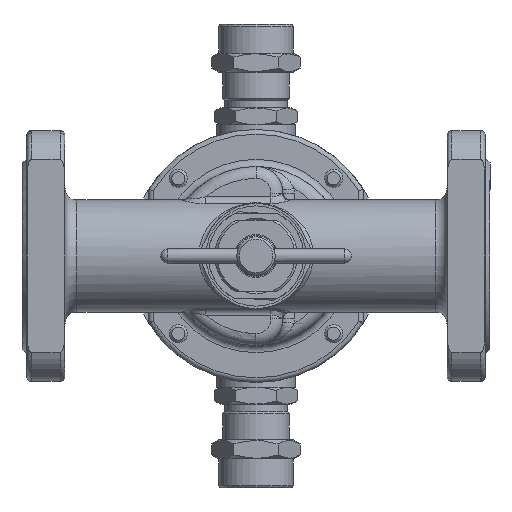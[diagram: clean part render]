
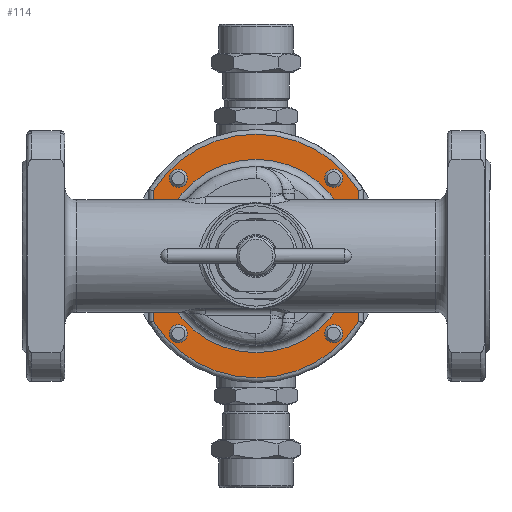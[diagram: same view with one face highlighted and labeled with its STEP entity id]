
A CAD part, front view. The second image highlights one B-rep face of the part: STEP entity #114.
In plain terms, the highlighted planar face has unit normal (0, -1, 0).
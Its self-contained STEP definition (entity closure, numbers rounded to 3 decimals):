
#114=ADVANCED_FACE('',(#3743,#3745,#3747,#3749,#3751,#3753),#3755,.F.);
#3743=FACE_BOUND('',#3744,.T.);
#3744=EDGE_LOOP('',(#20942));
#3745=FACE_BOUND('',#3746,.T.);
#3746=EDGE_LOOP('',(#20943));
#3747=FACE_BOUND('',#3748,.T.);
#3748=EDGE_LOOP('',(#20944));
#3749=FACE_BOUND('',#3750,.T.);
#3750=EDGE_LOOP('',(#20945));
#3751=FACE_BOUND('',#3752,.T.);
#3752=EDGE_LOOP('',(#20946));
#3753=FACE_OUTER_BOUND('',#3754,.T.);
#3754=EDGE_LOOP('',(#20947,#20948,#20949,#20950));
#3755=PLANE('',#3756);
#3756=AXIS2_PLACEMENT_3D('',#3757,#3758,#3759);
#3757=CARTESIAN_POINT('',(0.,30.,0.));
#3758=DIRECTION('',(0.,1.,0.));
#3759=DIRECTION('',(-1.,0.,0.));
#20942=ORIENTED_EDGE('',*,*,#32478,.F.);
#20943=ORIENTED_EDGE('',*,*,#32479,.F.);
#20944=ORIENTED_EDGE('',*,*,#32480,.F.);
#20945=ORIENTED_EDGE('',*,*,#32481,.F.);
#20946=ORIENTED_EDGE('',*,*,#32482,.F.);
#20947=ORIENTED_EDGE('',*,*,#32483,.F.);
#20948=ORIENTED_EDGE('',*,*,#32484,.F.);
#20949=ORIENTED_EDGE('',*,*,#32485,.F.);
#20950=ORIENTED_EDGE('',*,*,#32486,.F.);
#32478=EDGE_CURVE('',#37441,#37441,#37442,.T.);
#32479=EDGE_CURVE('',#37443,#37443,#37444,.T.);
#32480=EDGE_CURVE('',#37445,#37445,#37446,.T.);
#32481=EDGE_CURVE('',#37447,#37447,#37448,.T.);
#32482=EDGE_CURVE('',#37449,#37449,#37450,.T.);
#32483=EDGE_CURVE('',#37451,#37452,#37453,.T.);
#32484=EDGE_CURVE('',#37454,#37451,#37455,.T.);
#32485=EDGE_CURVE('',#37456,#37454,#37457,.T.);
#32486=EDGE_CURVE('',#37452,#37456,#37458,.T.);
#37441=VERTEX_POINT('',#45669);
#37442=CIRCLE('',#45670,3.75);
#37443=VERTEX_POINT('',#45674);
#37444=CIRCLE('',#45675,3.75);
#37445=VERTEX_POINT('',#45679);
#37446=CIRCLE('',#45680,40.5);
#37447=VERTEX_POINT('',#45684);
#37448=CIRCLE('',#45685,3.75);
#37449=VERTEX_POINT('',#45689);
#37450=CIRCLE('',#45690,3.75);
#37451=VERTEX_POINT('',#45694);
#37452=VERTEX_POINT('',#45695);
#37453=CIRCLE('',#45696,51.);
#37454=VERTEX_POINT('',#45700);
#37455=LINE('',#45701,#45702);
#37456=VERTEX_POINT('',#45704);
#37457=CIRCLE('',#45705,51.);
#37458=LINE('',#45709,#45710);
#45669=CARTESIAN_POINT('',(-32.527,30.,-36.277));
#45670=AXIS2_PLACEMENT_3D('',#45671,#45672,#45673);
#45671=CARTESIAN_POINT('',(-32.527,30.,-32.527));
#45672=DIRECTION('',(0.,-1.,0.));
#45673=DIRECTION('',(0.,0.,-1.));
#45674=CARTESIAN_POINT('',(32.527,30.,36.277));
#45675=AXIS2_PLACEMENT_3D('',#45676,#45677,#45678);
#45676=CARTESIAN_POINT('',(32.527,30.,32.527));
#45677=DIRECTION('',(0.,-1.,0.));
#45678=DIRECTION('',(0.,0.,1.));
#45679=CARTESIAN_POINT('',(-40.5,30.,0.));
#45680=AXIS2_PLACEMENT_3D('',#45681,#45682,#45683);
#45681=CARTESIAN_POINT('',(0.,30.,0.));
#45682=DIRECTION('',(0.,-1.,0.));
#45683=DIRECTION('',(-1.,0.,0.));
#45684=CARTESIAN_POINT('',(36.277,30.,-32.527));
#45685=AXIS2_PLACEMENT_3D('',#45686,#45687,#45688);
#45686=CARTESIAN_POINT('',(32.527,30.,-32.527));
#45687=DIRECTION('',(0.,-1.,0.));
#45688=DIRECTION('',(1.,0.,0.));
#45689=CARTESIAN_POINT('',(-36.277,30.,32.527));
#45690=AXIS2_PLACEMENT_3D('',#45691,#45692,#45693);
#45691=CARTESIAN_POINT('',(-32.527,30.,32.527));
#45692=DIRECTION('',(0.,-1.,0.));
#45693=DIRECTION('',(-1.,0.,0.));
#45694=CARTESIAN_POINT('',(43.,30.,-27.423));
#45695=CARTESIAN_POINT('',(-43.,30.,-27.423));
#45696=AXIS2_PLACEMENT_3D('',#45697,#45698,#45699);
#45697=CARTESIAN_POINT('',(0.,30.,0.));
#45698=DIRECTION('',(0.,1.,0.));
#45699=DIRECTION('',(0.843,0.,-0.538));
#45700=CARTESIAN_POINT('',(43.,30.,27.423));
#45701=CARTESIAN_POINT('',(43.,30.,27.423));
#45702=VECTOR('',#45703,1.);
#45703=DIRECTION('',(0.,0.,-1.));
#45704=CARTESIAN_POINT('',(-43.,30.,27.423));
#45705=AXIS2_PLACEMENT_3D('',#45706,#45707,#45708);
#45706=CARTESIAN_POINT('',(0.,30.,0.));
#45707=DIRECTION('',(0.,1.,0.));
#45708=DIRECTION('',(-0.843,0.,0.538));
#45709=CARTESIAN_POINT('',(-43.,30.,-27.423));
#45710=VECTOR('',#45711,1.);
#45711=DIRECTION('',(0.,0.,1.));
